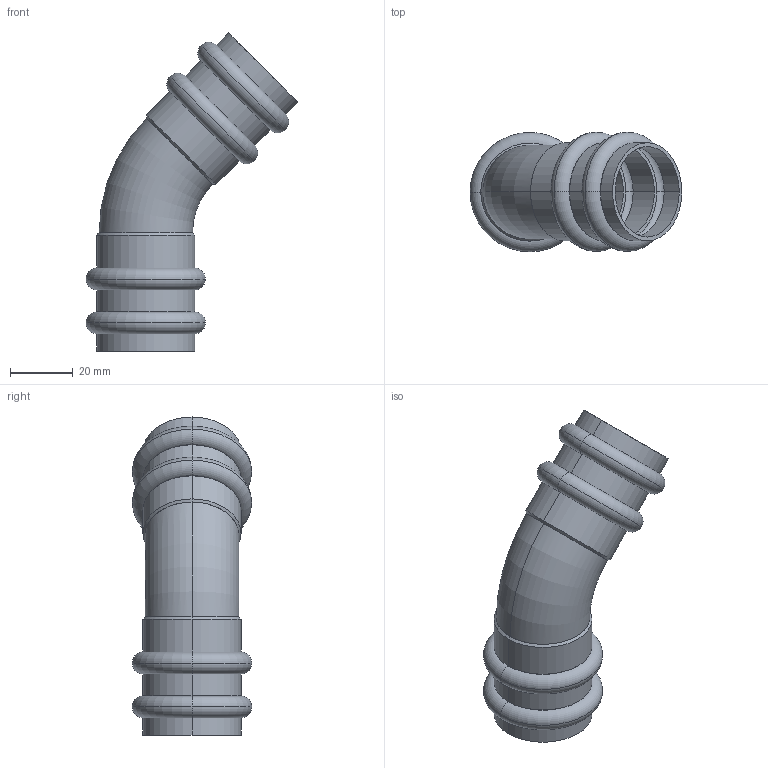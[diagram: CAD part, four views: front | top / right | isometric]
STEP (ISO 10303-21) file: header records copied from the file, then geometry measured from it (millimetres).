
FILE_DESCRIPTION(('starvars output'),'1');
FILE_NAME('cv20240422105124000011903.stp','10:51:25 2024/04/22',('Thomas Industrial Network Germany GmbH'),(' '),'Spatial InterOp 3D',' ',' ');
FILE_SCHEMA(('AUTOMOTIVE_DESIGN { 1 0 10303 214 3 1 1 }'));
Length unit declared in the file: millimetre
Products named in the file (1): 1
Bounding box: 67.59 x 38.1 x 101.55 mm (x, y, z)
Volume: 17153.7 mm3; surface area: 23142.2 mm2
Topology: 1 solids, 1 shells, 74 faces, 148 edges, 92 vertices
Faces by surface type: torus 28, cylinder 20, plane 18, cone 8
Entity records: 2892 total; most frequent: CARTESIAN_POINT 627, DIRECTION 410, ORIENTED_EDGE 296, AXIS2_PLACEMENT_3D 191, EDGE_CURVE 148, CIRCLE 116, EDGE_LOOP 92, VERTEX_POINT 92
